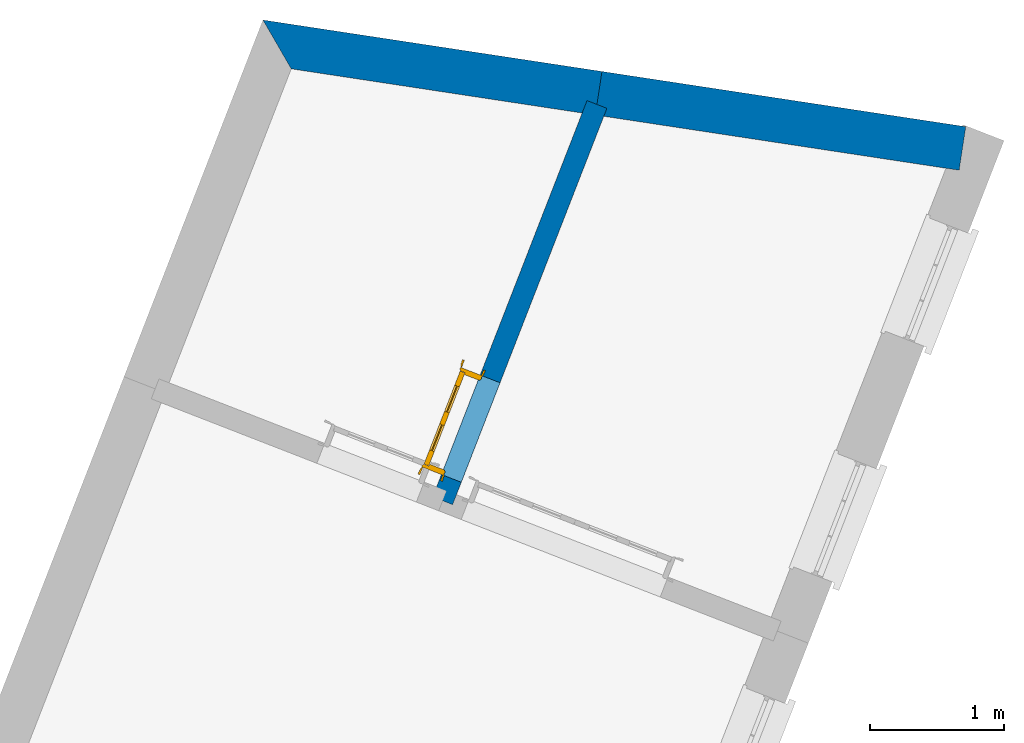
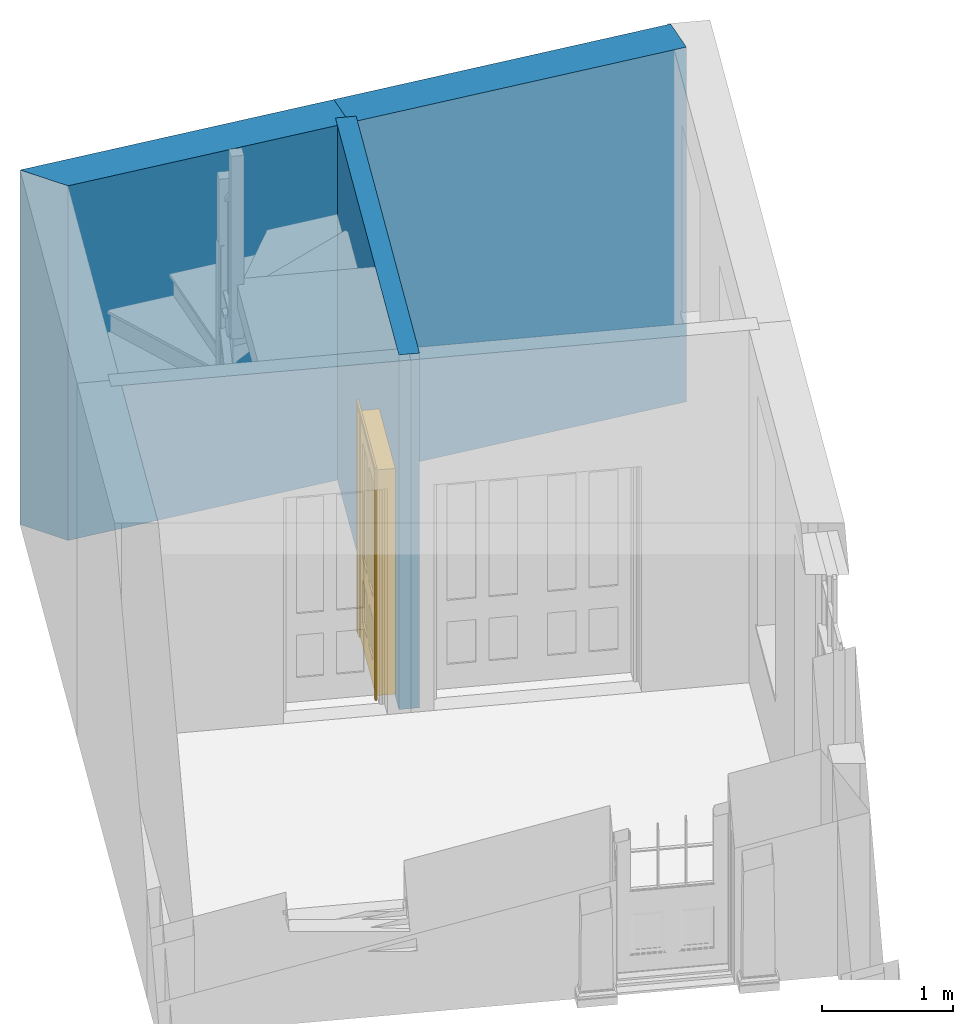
# One storey, part 6 of 7: 3 walls, 1 door, 1 opening.
"""IFC4 building model written with IfcOpenShell, lengths in metres."""

from ifc_helpers import new_model, si_unit, frame, origin, origin_with_axes, place, context, subcontext, project, spatial, polyline, outline, extrude, faceted_brep, source, transform, mapped, material, layer, layer_set, layer_usage, type_object, type_shapes, element, fill, save


model = new_model("IFC4")

# Units and contexts
model_context = context("Model", 3, world=origin_with_axes())
body_context = subcontext(model_context, "Body", "Model", "MODEL_VIEW")
ifc_project = project(units=[si_unit("PLANEANGLEUNIT", "RADIAN"), si_unit("MASSUNIT", "GRAM", prefix="KILO"), si_unit("FORCEUNIT", "NEWTON", prefix="KILO"), si_unit("LENGTHUNIT", "METRE"), si_unit("AREAUNIT", "SQUARE_METRE"), si_unit("VOLUMEUNIT", "CUBIC_METRE")], contexts=[model_context, model_context])

# Sites, building, storey
site_1_placement = place(None, origin_with_axes())
site_1 = spatial("IfcSite", under=ifc_project, at=site_1_placement, Name="Tamar")
site_2_placement = place(site_1_placement, origin_with_axes())
site_2 = spatial("IfcSite", under=site_1, at=site_2_placement, Name="Site plot-10", CompositionType="ELEMENT")
building_placement = place(None, origin_with_axes())
building = spatial("IfcBuilding", under=site_2, at=building_placement, Name="Building plot-10", CompositionType="ELEMENT")
storey_placement = place(None, frame((0.0, 0.0, 26.8), z_axis=(0.0, 0.0, 1.0), x_axis=(1.0, 0.0, 0.0)))
storey = spatial("IfcBuildingStorey", under=building, at=storey_placement, Name="plot-10 0", CompositionType="ELEMENT", Elevation=26.8)

# Walls
ifc_material_1 = material(Name="Masonry")
ifc_layer_1 = layer(ifc_material_1, 0.33, ventilated=False)
ifc_layer_set_1 = layer_set([ifc_layer_1], Name="party_0.08_0.25")
ifc_layer_usage_1 = layer_usage(ifc_layer_set_1, "AXIS2", "POSITIVE", -0.25)
wall_type_1 = type_object("IfcWallType", Name="party_0.08_0.25", PredefinedType="SOLIDWALL", material=ifc_layer_set_1)
wall_1_placement = place(storey_placement, frame((237.500153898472, 321.876514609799, 0.0), z_axis=(0.0, 0.0, 1.0), x_axis=(-0.988675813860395, 0.150067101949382, 0.0)))
element("IfcWall", 1, at=wall_1_placement, inside=storey, type_object=wall_type_1, material=ifc_layer_usage_1, Name="party", context=body_context, shape_type="SweptSolid", body=[
    extrude(outline(polyline([(-1.30690877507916e-14, 0.0800000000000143), (1.51410916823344e-15, -0.250000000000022), (2.75611606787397, -0.250000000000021), (2.75611606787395, 0.0800000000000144), (-1.30690877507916e-14, 0.0800000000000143)])), origin_with_axes(), (0.0, 0.0, 1.0), 3.3),
])
wall_2_placement = place(storey_placement, frame((234.775248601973, 322.290116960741, 0.0), z_axis=(0.0, 0.0, 1.0), x_axis=(-0.988675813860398, 0.150067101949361, 0.0)))
element("IfcWall", 2, at=wall_2_placement, inside=storey, type_object=wall_type_1, material=ifc_layer_usage_1, Name="party", context=body_context, shape_type="SweptSolid", body=[
    extrude(outline(polyline([(-1.1328258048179e-14, 0.0800000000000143), (-3.92598365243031e-15, -0.250000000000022), (2.5682490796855, -0.249999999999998), (2.30406746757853, 0.0800000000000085), (-1.1328258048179e-14, 0.0800000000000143)])), origin_with_axes(), (0.0, 0.0, 1.0), 3.3),
])

# Wall, opening, door
ifc_material_2 = material(Name="Masonry")
ifc_layer_2 = layer(ifc_material_2, 0.16, ventilated=False)
ifc_layer_set_2 = layer_set([ifc_layer_2], Name="interior_0.08_0.08")
ifc_layer_usage_2 = layer_usage(ifc_layer_set_2, "AXIS2", "POSITIVE", -0.08)
wall_type_2 = type_object("IfcWallType", Name="interior_0.08_0.08", PredefinedType="SOLIDWALL", material=ifc_layer_set_2)
wall_3_placement = place(storey_placement, frame((233.619521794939, 319.321661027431, 0.0), z_axis=(0.0, 0.0, 1.0), x_axis=(0.362808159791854, 0.931863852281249, 0.0)))
wall_3 = element("IfcWall", 3, at=wall_3_placement, inside=storey, type_object=wall_type_2, material=ifc_layer_usage_2, Name="interior", context=body_context, shape_type="SweptSolid", body=[
    extrude(outline(polyline([(-1.61599486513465e-14, 0.0800000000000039), (1.61697458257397e-14, -0.0800000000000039), (3.18550389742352, -0.0800000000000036), (3.18550389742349, 0.0800000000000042), (-1.61599486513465e-14, 0.0800000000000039)])), origin_with_axes(), (0.0, 0.0, 1.0), 3.3),
])
opening_placement = place(wall_3_placement, frame((0.180000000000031, 0.0, 0.0199999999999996)))
opening = element("IfcOpeningElement", 4, at=opening_placement, cuts=wall_3, Name="My Opening", ObjectType="Opening", context=body_context, shape_type="SweptSolid", body=[
    extrude(outline(polyline([(0.0, -0.100000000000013), (0.799999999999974, -0.0999999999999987), (0.799999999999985, 1.10000000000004), (1.05193631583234e-14, 1.10000000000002), (0.0, -0.100000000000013)])), origin_with_axes(), (0.0, 0.0, 1.0), 2.1),
])
door_type = type_object("IfcDoorType", Name="door_inside", OperationType="SINGLE_SWING_LEFT", PredefinedType="NOTDEFINED")
shared_shape = source(origin(), body_context, "Body", "Brep", [
    faceted_brep([(0.773, 0.33, 1.895), (0.66, 0.33, 1.895), (0.66, 0.33, 2.073), (0.773, 0.33, 2.073), (0.773, 0.33, 0.82), (0.66, 0.33, 0.82), (0.45, 0.33, 1.895), (0.45, 0.33, 2.073), (0.773, 0.33, 0.62), (0.66, 0.33, 0.62), (0.66, 0.315, 0.82), (0.66, 0.315, 1.895), (0.45, 0.315, 1.895), (0.35, 0.33, 1.895), (0.35, 0.33, 2.073), (0.773, 0.33, 0.225), (0.66, 0.33, 0.225), (0.45, 0.33, 0.62), (0.45, 0.33, 0.82), (0.45, 0.315, 0.82), (0.35, 0.33, 0.82), (0.14, 0.33, 2.073), (0.14, 0.33, 1.895), (0.773, 0.33, 0.0), (0.66, 0.33, 0.0), (0.66, 0.315, 0.225), (0.66, 0.315, 0.62), (0.45, 0.315, 0.62), (0.35, 0.33, 0.62), (0.35, 0.315, 0.82), (0.35, 0.315, 1.895), (0.14, 0.315, 1.895), (0.027, 0.33, 2.073), (0.027, 0.33, 1.895), (0.773, 0.292, 0.0), (0.66, 0.292, 0.0), (0.45, 0.33, 0.0), (0.45, 0.33, 0.225), (0.45, 0.315, 0.225), (0.35, 0.33, 0.225), (0.14, 0.33, 0.82), (0.14, 0.33, 0.62), (0.14, 0.315, 0.82), (0.027, 0.33, 0.82), (0.773, 0.292, 0.225), (0.66, 0.292, 0.225), (0.45, 0.292, 0.0), (0.35, 0.33, 0.0), (0.35, 0.315, 0.225), (0.35, 0.315, 0.62), (0.14, 0.315, 0.62), (0.027, 0.33, 0.62), (0.773, 0.292, 0.62), (0.66, 0.292, 0.62), (0.45, 0.292, 0.225), (0.35, 0.292, 0.0), (0.14, 0.33, 0.225), (0.14, 0.33, 0.0), (0.14, 0.315, 0.225), (0.027, 0.33, 0.225), (0.773, 0.292, 0.82), (0.66, 0.292, 0.82), (0.66, 0.307, 0.62), (0.66, 0.307, 0.225), (0.45, 0.307, 0.225), (0.35, 0.292, 0.225), (0.14, 0.292, 0.0), (0.027, 0.33, 0.0), (0.773, 0.292, 1.895), (0.66, 0.292, 1.895), (0.45, 0.292, 0.62), (0.45, 0.292, 0.82), (0.45, 0.307, 0.62), (0.35, 0.292, 0.62), (0.14, 0.292, 0.225), (0.027, 0.292, 0.0), (0.773, 0.292, 2.073), (0.66, 0.292, 2.073), (0.66, 0.307, 1.895), (0.66, 0.307, 0.82), (0.45, 0.307, 0.82), (0.35, 0.292, 0.82), (0.35, 0.307, 0.62), (0.35, 0.307, 0.225), (0.14, 0.307, 0.225), (0.027, 0.292, 0.225), (0.45, 0.292, 1.895), (0.45, 0.292, 2.073), (0.45, 0.307, 1.895), (0.35, 0.292, 1.895), (0.14, 0.292, 0.82), (0.14, 0.292, 0.62), (0.14, 0.307, 0.62), (0.027, 0.292, 0.62), (0.35, 0.292, 2.073), (0.35, 0.307, 1.895), (0.35, 0.307, 0.82), (0.14, 0.307, 0.82), (0.027, 0.292, 0.82), (0.14, 0.292, 2.073), (0.14, 0.292, 1.895), (0.14, 0.307, 1.895), (0.027, 0.292, 1.895), (0.027, 0.292, 2.073), (0.02, 0.335, 0.0), (0.005, 0.34, 0.0), (0.005, 0.34, 2.095), (0.02, 0.335, 2.08), (0.02, 0.33, 0.0), (0.0, 0.335, 0.0), (0.0, 0.335, 2.1), (0.795, 0.34, 2.095), (0.78, 0.335, 2.08), (0.02, 0.33, 2.08), (0.0, 0.33, 0.0), (-0.032, 0.345, 0.0), (-0.032, 0.345, 2.132), (0.8, 0.335, 2.1), (0.795, 0.34, 0.0), (0.78, 0.335, 0.0), (0.78, 0.33, 2.08), (0.04, 0.29, 0.0), (0.025, 0.29, 0.0), (0.025, 0.29, 2.075), (0.04, 0.29, 2.06), (-0.04, 0.34, 0.0), (-0.04, 0.34, 2.14), (0.832, 0.345, 2.132), (0.8, 0.335, 0.0), (0.78, 0.33, 0.0), (0.8, 0.33, 0.0), (0.86, 0.33, 0.0), (0.86, 0.33, 2.16), (0.8, 0.33, 2.1), (-0.06, 0.33, 2.16), (0.0, 0.33, 2.1), (-0.06, 0.33, 0.0), (-0.04, 0.345, 0.0), (-0.04, 0.345, 2.14), (0.84, 0.34, 2.14), (0.832, 0.345, 0.0), (0.84, 0.34, 0.0), (0.86, 0.345, 0.0), (0.86, 0.345, 2.16), (-0.06, 0.345, 2.16), (-0.06, 0.345, 0.0), (0.84, 0.345, 0.0), (0.84, 0.345, 2.14), (-0.025, 0.155, 0.0), (-0.025, 0.16, 0.0), (-0.025, 0.16, 2.125), (-0.025, 0.155, 2.125), (-0.017, 0.155, 0.0), (-0.017, 0.155, 2.117), (0.825, 0.16, 2.125), (0.825, 0.155, 2.125), (0.825, 0.155, 0.0), (0.845, 0.155, 0.0), (-0.045, 0.155, 2.145), (-0.045, 0.155, 0.0), (0.845, 0.155, 2.145), (0.015, 0.165, 0.0), (0.015, 0.165, 2.085), (0.817, 0.155, 2.117), (0.825, 0.16, 0.0), (0.845, 0.17, 0.0), (0.845, 0.17, 2.145), (-0.045, 0.17, 2.145), (-0.045, 0.17, 0.0), (0.02, 0.16, 0.0), (0.02, 0.16, 2.08), (0.785, 0.165, 2.085), (0.817, 0.155, 0.0), (0.8, 0.17, 0.0), (0.8, 0.17, 2.1), (0.0, 0.17, 2.1), (0.0, 0.17, 0.0), (0.035, 0.165, 0.0), (0.035, 0.165, 2.065), (0.78, 0.16, 2.08), (0.785, 0.165, 0.0), (0.775, 0.29, 2.075), (0.76, 0.29, 2.06), (0.035, 0.17, 2.065), (0.035, 0.17, 0.0), (0.765, 0.165, 2.065), (0.78, 0.16, 0.0), (0.765, 0.17, 0.0), (0.765, 0.17, 2.065), (0.765, 0.165, 0.0), (0.04, 0.17, 2.06), (0.04, 0.17, 0.0), (0.76, 0.17, 2.06), (0.76, 0.17, 0.0), (0.76, 0.29, 0.0), (0.775, 0.29, 0.0), (0.025, 0.33, 0.0), (0.025, 0.33, 2.075), (0.775, 0.33, 0.0), (0.775, 0.33, 2.075)], [[[0, 1, 2, 3]], [[1, 0, 4, 5]], [[1, 6, 7, 2]], [[8, 9, 5, 4]], [[1, 5, 10, 11]], [[6, 1, 11, 12]], [[6, 13, 14, 7]], [[15, 16, 9, 8]], [[9, 17, 18, 5]], [[5, 18, 19, 10]], [[10, 19, 12, 11]], [[18, 6, 12, 19]], [[18, 20, 13, 6]], [[21, 14, 13, 22]], [[23, 24, 16, 15]], [[9, 16, 25, 26]], [[17, 9, 26, 27]], [[17, 28, 20, 18]], [[13, 20, 29, 30]], [[22, 13, 30, 31]], [[32, 21, 22, 33]], [[34, 35, 24, 23]], [[24, 36, 37, 16]], [[16, 37, 38, 25]], [[25, 38, 27, 26]], [[37, 17, 27, 38]], [[37, 39, 28, 17]], [[40, 20, 28, 41]], [[20, 40, 42, 29]], [[31, 30, 29, 42]], [[40, 22, 31, 42]], [[33, 22, 40, 43]], [[35, 34, 44, 45]], [[35, 46, 36, 24]], [[36, 47, 39, 37]], [[28, 39, 48, 49]], [[41, 28, 49, 50]], [[43, 40, 41, 51]], [[45, 44, 52, 53]], [[46, 35, 45, 54]], [[46, 55, 47, 36]], [[56, 39, 47, 57]], [[39, 56, 58, 48]], [[50, 49, 48, 58]], [[56, 41, 50, 58]], [[51, 41, 56, 59]], [[53, 52, 60, 61]], [[45, 53, 62, 63]], [[54, 45, 63, 64]], [[55, 46, 54, 65]], [[55, 66, 57, 47]], [[59, 56, 57, 67]], [[61, 60, 68, 69]], [[70, 53, 61, 71]], [[53, 70, 72, 62]], [[72, 64, 63, 62]], [[70, 54, 64, 72]], [[65, 54, 70, 73]], [[65, 74, 66, 55]], [[67, 57, 66, 75]], [[69, 68, 76, 77]], [[61, 69, 78, 79]], [[71, 61, 79, 80]], [[73, 70, 71, 81]], [[65, 73, 82, 83]], [[74, 65, 83, 84]], [[74, 85, 75, 66]], [[86, 69, 77, 87]], [[69, 86, 88, 78]], [[88, 80, 79, 78]], [[86, 71, 80, 88]], [[81, 71, 86, 89]], [[73, 81, 90, 91]], [[73, 91, 92, 82]], [[83, 82, 92, 84]], [[91, 74, 84, 92]], [[91, 93, 85, 74]], [[89, 86, 87, 94]], [[81, 89, 95, 96]], [[90, 81, 96, 97]], [[90, 98, 93, 91]], [[94, 99, 100, 89]], [[89, 100, 101, 95]], [[101, 97, 96, 95]], [[100, 90, 97, 101]], [[100, 102, 98, 90]], [[99, 103, 102, 100]], [[32, 103, 99, 21]], [[102, 103, 32, 33]], [[98, 102, 33, 43]], [[21, 99, 94, 14]], [[94, 87, 7, 14]], [[7, 87, 77, 2]], [[76, 3, 2, 77]], [[43, 51, 93, 98]], [[51, 59, 85, 93]], [[67, 75, 85, 59]], [[34, 23, 15, 44]], [[44, 15, 8, 52]], [[52, 8, 4, 60]], [[0, 68, 60, 4]], [[0, 3, 76, 68]], [[104, 105, 106, 107]], [[104, 108, 109, 105]], [[105, 109, 110, 106]], [[107, 106, 111, 112]], [[107, 113, 108, 104]], [[114, 109, 108]], [[109, 115, 116, 110]], [[106, 110, 117, 111]], [[112, 111, 118, 119]], [[113, 107, 112, 120]], [[121, 122, 123, 124]], [[115, 109, 114, 125]], [[115, 125, 126, 116]], [[110, 116, 127, 117]], [[111, 117, 128, 118]], [[118, 128, 129, 119]], [[120, 112, 119, 129]], [[130, 129, 128]], [[130, 131, 132, 133]], [[133, 132, 134, 135]], [[135, 134, 136, 114]], [[136, 125, 114]], [[125, 137, 138, 126]], [[116, 126, 139, 127]], [[117, 127, 140, 128]], [[141, 130, 128, 140]], [[131, 130, 141]], [[131, 142, 143, 132]], [[132, 143, 144, 134]], [[134, 144, 145, 136]], [[137, 125, 136, 145]], [[143, 142, 146]], [[143, 146, 147]], [[137, 145, 144]], [[143, 147, 138]], [[138, 137, 144]], [[143, 138, 144]], [[126, 138, 147, 139]], [[127, 139, 141, 140]], [[142, 131, 141, 146]], [[139, 147, 146, 141]], [[148, 149, 150, 151]], [[149, 152, 153, 150]], [[151, 150, 154, 155]], [[155, 156, 157]], [[158, 159, 148]], [[158, 148, 151]], [[155, 157, 160]], [[158, 151, 155]], [[155, 160, 158]], [[152, 161, 162, 153]], [[150, 153, 163, 154]], [[155, 154, 164, 156]], [[156, 164, 165, 157]], [[157, 165, 166, 160]], [[160, 166, 167, 158]], [[158, 167, 168, 159]], [[161, 169, 170, 162]], [[153, 162, 171, 163]], [[154, 163, 172, 164]], [[165, 164, 173]], [[165, 173, 174, 166]], [[166, 174, 175, 167]], [[167, 175, 176, 168]], [[169, 177, 178, 170]], [[162, 170, 179, 171]], [[163, 171, 180, 172]], [[172, 180, 173, 164]], [[124, 123, 181, 182]], [[183, 178, 177, 184]], [[170, 178, 185, 179]], [[171, 179, 186, 180]], [[187, 173, 180]], [[185, 188, 187, 189]], [[188, 185, 178, 183]], [[179, 185, 189, 186]], [[189, 187, 180, 186]], [[190, 183, 184, 191]], [[192, 188, 183, 190]], [[191, 184, 122, 121]], [[124, 190, 191, 121]], [[193, 187, 188, 192]], [[182, 192, 190, 124]], [[184, 176, 122]], [[194, 195, 187, 193]], [[192, 182, 194, 193]], [[161, 176, 184]], [[114, 108, 122, 176]], [[173, 187, 195]], [[152, 149, 176, 161]], [[169, 161, 184, 177]], [[196, 122, 108]], [[176, 175, 135, 114]], [[173, 195, 129, 130]], [[176, 149, 168]], [[123, 122, 196, 197]], [[196, 108, 113, 197]], [[175, 174, 133, 135]], [[198, 129, 195]], [[133, 174, 173, 130]], [[159, 168, 149, 148]], [[181, 123, 197, 199]], [[197, 113, 120, 199]], [[199, 120, 129, 198]], [[195, 181, 199, 198]], [[195, 194, 182, 181]]]),
])
type_shapes(door_type, [shared_shape])
door_placement = place(storey_placement, frame((233.77801364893, 319.453115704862, 0.0199999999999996), z_axis=(0.0, 0.0, 1.0), x_axis=(0.29024652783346, 0.74549108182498, 0.0)))
door = element("IfcDoor", 5, at=door_placement, inside=storey, type_object=door_type, Name="kitchen inside door", OverallHeight=2.1, OverallWidth=0.8, context=body_context, shape_type="MappedRepresentation", body=[
    mapped(shared_shape, transform((0.0, 0.0, 0.0), scale=1.0)),
])
fill(opening, door)

save(model, "model.ifc")
